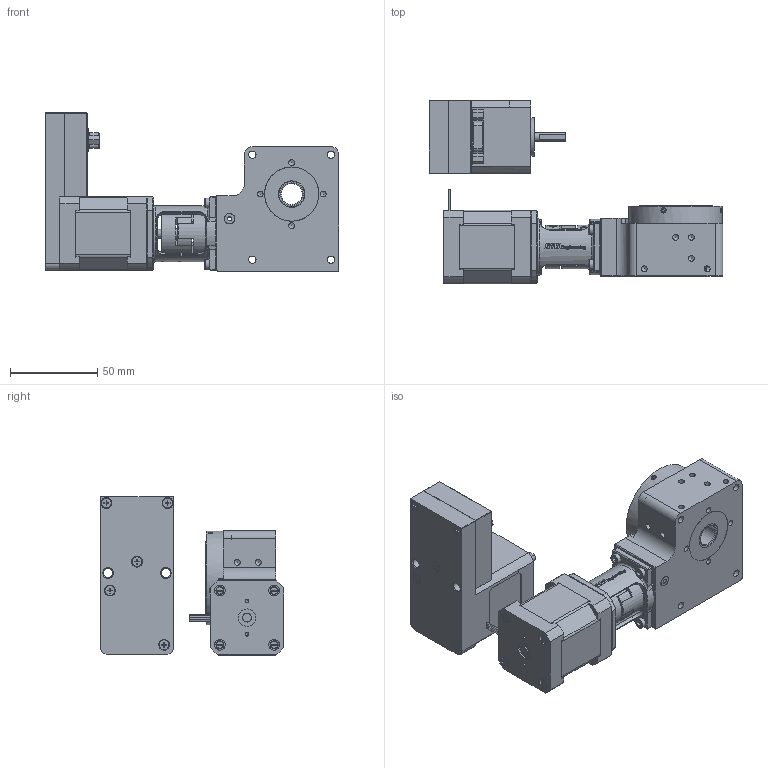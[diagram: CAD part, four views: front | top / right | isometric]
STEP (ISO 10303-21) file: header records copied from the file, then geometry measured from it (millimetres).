
FILE_DESCRIPTION (( 'STEP AP214' ), '1' );
FILE_NAME ('MDT36008.STEP', '2024-11-11T13:49:42', ( '' ), ( '' ), 'SwSTEP 2.0', 'SolidWorks 2022', '' );
FILE_SCHEMA (( 'AUTOMOTIVE_DESIGN' ));
Length unit declared in the file: millimetre
Products named in the file (5): MDT36008-100-00-Gehäuse-komplett-mit-Kupplung-und-Kupplungsgehäuse; MDT36008-999-Drehscheibe-und-Hohlwelle; MDT36008; NSM17^MDT36008; GSM17^MDT36008_n_Standard
Assembly tree (4 placements, depth 2):
  MDT36008
    MDT36008-100-00-Gehäuse-komplett-mit-Kupplung-und-Kupplungsgehäuse
    MDT36008-999-Drehscheibe-und-Hohlwelle
    GSM17^MDT36008_n_Standard
    NSM17^MDT36008
Bounding box: 168 x 104.9 x 90.38 mm (x, y, z)
Volume: 146029.7 mm3; surface area: 135555 mm2
Topology: 81 solids, 108 shells, 2112 faces, 5109 edges, 3300 vertices
Faces by surface type: plane 960, cylinder 526, bspline 413, cone 174, torus 37, sphere 2
Full cylindrical faces by diameter (mm): 0.6 x15, 1 x8, 2 x42, 2.013 x2, 2.459 x8, 2.5 x15, 2.7 x4, 2.8 x2, 2.98 x2, 2.998 x4, 3 x27, 3.2 x11, 3.3 x27, 3.4 x7, 4 x2, 4.2 x8, 4.5 x8, 4.8 x1, 5 x11, 5.2 x5, 5.5 x6, 5.6 x5, 5.8 x2, 5.99 x2, 6 x17, 6.2 x2, 7.5 x1, 8 x5, 9 x1, 9.95 x1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
Entity records: 100698 total; most frequent: CARTESIAN_POINT 34018, ORIENTED_EDGE 8666, DIRECTION 7302, EDGE_CURVE 4353, VERTEX_POINT 3107, EDGE_LOOP 2879, AXIS2_PLACEMENT_3D 2748, FACE_OUTER_BOUND 2453
